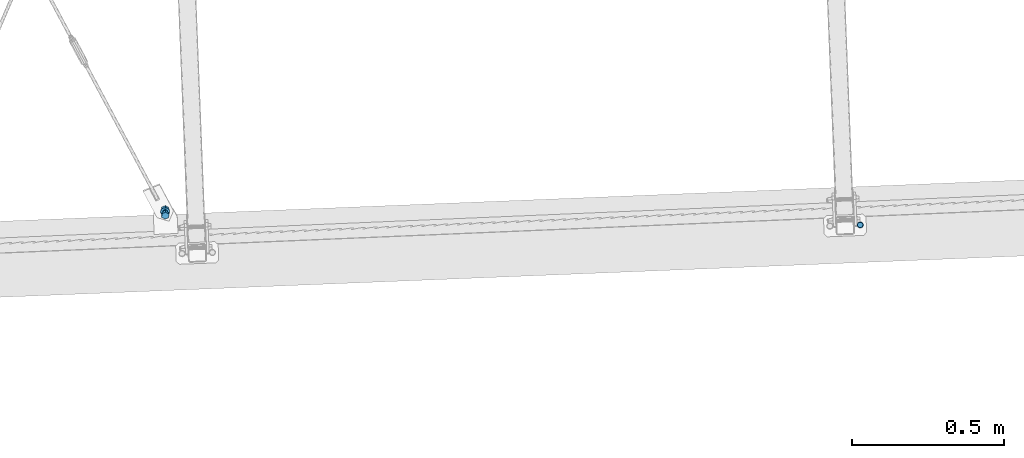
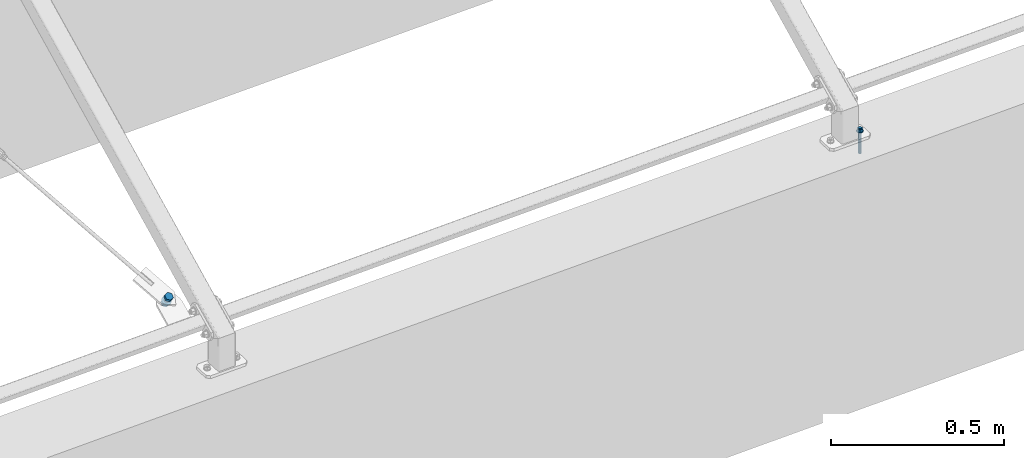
# One storey, part 261 of 288: 2 mechanical fasteners.
"""IFC2X3 building model written with IfcOpenShell, lengths in millimetres."""

from ifc_helpers import new_model, entity, si_unit, converted_unit, origin_with_axes, place, context, project, spatial, faceted_brep, element, save


model = new_model("IFC2X3")

# Units and contexts
model_context = context("Model", 3, precision=1e-09, world=origin_with_axes())
ifc_project = project(units=[si_unit("LENGTHUNIT", "METRE", prefix="MILLI"), si_unit("AREAUNIT", "SQUARE_METRE"), si_unit("VOLUMEUNIT", "CUBIC_METRE"), converted_unit("PLANEANGLEUNIT", "DEGREE", entity("IfcPlaneAngleMeasure", 0.01745329), si_unit("PLANEANGLEUNIT", "RADIAN"), dimensions=[0, 0, 0, 0, 0, 0, 0])], contexts=[model_context])

# Site, building, storey
site_placement = place(None, origin_with_axes())
site = spatial("IfcSite", under=ifc_project, at=site_placement, Name="Remont ?wietlik?w nad MC w NCPP w Opolu", CompositionType="ELEMENT")
building_placement = place(site_placement, origin_with_axes())
building = spatial("IfcBuilding", under=site, at=building_placement, Name="Konstrukcja 1", CompositionType="ELEMENT")
storey_placement = place(building_placement, origin_with_axes())
storey = spatial("IfcBuildingStorey", under=building, at=storey_placement, Name="Default Storey", CompositionType="ELEMENT", Elevation=0.0)

# Mechanical fasteners
mechanical_fastener_1_placement = place(None, origin_with_axes())
element("IfcMechanicalFastener", 1, at=mechanical_fastener_1_placement, inside=storey, ObjectType="Anchor_Bolt", NominalDiameter=10.0, NominalLength=90.0, context=model_context, shape_type="Brep", body=[
    faceted_brep([(5653.463595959, 13768.125662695, 12.000000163), (5653.463595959, 13768.125662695, 10.000000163), (5651.424685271, 13767.843370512, 10.000000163), (5651.424685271, 13767.843370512, 12.000000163), (5649.480024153, 13767.168730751, 10.000000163), (5649.480024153, 13767.168730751, 12.000000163), (5647.704344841, 13766.12766944, 10.000000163), (5647.704344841, 13766.12766944, 12.000000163), (5646.165885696, 13764.760193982, 10.000000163), (5646.165885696, 13764.760193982, 12.000000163), (5644.923768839, 13763.118855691, 10.000000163), (5644.923768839, 13763.118855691, 12.000000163), (5644.025728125, 13761.266730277, 10.000000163), (5644.025728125, 13761.266730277, 12.000000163), (5643.506274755, 13759.274993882, 10.000000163), (5643.506274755, 13759.274993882, 12.000000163), (5643.38537103, 13757.220187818, 10.000000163), (5643.38537103, 13757.220187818, 12.000000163), (5643.667663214, 13755.18127713, 10.000000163), (5643.667663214, 13755.18127713, 12.000000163), (5644.342302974, 13753.236616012, 10.000000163), (5644.342302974, 13753.236616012, 12.000000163), (5645.383364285, 13751.4609367, 10.000000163), (5645.383364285, 13751.4609367, 12.000000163), (5646.750839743, 13749.922477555, 10.000000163), (5646.750839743, 13749.922477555, 12.000000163), (5648.392178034, 13748.680360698, 10.000000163), (5648.392178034, 13748.680360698, 12.000000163), (5650.244303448, 13747.782319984, 10.000000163), (5650.244303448, 13747.782319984, 12.000000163), (5652.236039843, 13747.262866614, 10.000000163), (5652.236039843, 13747.262866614, 12.000000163), (5654.290845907, 13747.141962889, 10.000000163), (5654.290845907, 13747.141962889, 12.000000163), (5656.329756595, 13747.424255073, 10.000000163), (5656.329756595, 13747.424255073, 12.000000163), (5658.274417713, 13748.098894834, 10.000000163), (5658.274417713, 13748.098894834, 12.000000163), (5660.050097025, 13749.139956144, 10.000000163), (5660.050097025, 13749.139956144, 12.000000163), (5661.58855617, 13750.507431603, 10.000000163), (5661.58855617, 13750.507431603, 12.000000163), (5662.830673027, 13752.148769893, 10.000000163), (5662.830673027, 13752.148769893, 12.000000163), (5663.728713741, 13754.000895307, 10.000000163), (5663.728713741, 13754.000895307, 12.000000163), (5664.248167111, 13755.992631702, 10.000000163), (5664.248167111, 13755.992631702, 12.000000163), (5664.369070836, 13758.047437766, 10.000000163), (5664.369070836, 13758.047437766, 12.000000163), (5664.086778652, 13760.086348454, 10.000000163), (5664.086778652, 13760.086348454, 12.000000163), (5663.412138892, 13762.031009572, 10.000000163), (5663.412138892, 13762.031009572, 12.000000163), (5662.371077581, 13763.806688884, 10.000000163), (5662.371077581, 13763.806688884, 12.000000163), (5661.003602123, 13765.345148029, 10.000000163), (5661.003602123, 13765.345148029, 12.000000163), (5659.362263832, 13766.587264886, 10.000000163), (5659.362263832, 13766.587264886, 12.000000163), (5657.510138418, 13767.4853056, 10.000000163), (5657.510138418, 13767.4853056, 12.000000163), (5655.518402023, 13768.00475897, 10.000000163), (5655.518402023, 13768.00475897, 12.000000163)], [[[0, 1, 2, 3]], [[3, 2, 4, 5]], [[5, 4, 6, 7]], [[7, 6, 8, 9]], [[9, 8, 10, 11]], [[11, 10, 12, 13]], [[13, 12, 14, 15]], [[15, 14, 16, 17]], [[17, 16, 18, 19]], [[19, 18, 20, 21]], [[21, 20, 22, 23]], [[23, 22, 24, 25]], [[25, 24, 26, 27]], [[27, 26, 28, 29]], [[29, 28, 30, 31]], [[31, 30, 32, 33]], [[33, 32, 34, 35]], [[35, 34, 36, 37]], [[37, 36, 38, 39]], [[39, 38, 40, 41]], [[41, 40, 42, 43]], [[43, 42, 44, 45]], [[45, 44, 46, 47]], [[47, 46, 48, 49]], [[49, 48, 50, 51]], [[51, 50, 52, 53]], [[53, 52, 54, 55]], [[55, 54, 56, 57]], [[57, 56, 58, 59]], [[59, 58, 60, 61]], [[61, 60, 62, 63]], [[63, 62, 1, 0]], [[0, 3, 5, 7, 9, 11, 13, 15, 17, 19, 21, 23, 25, 27, 29, 31, 33, 35, 37, 39, 41, 43, 45, 47, 49, 51, 53, 55, 57, 59, 61, 63]], [[1, 62, 60, 58, 56, 54, 52, 50, 48, 46, 44, 42, 40, 38, 36, 34, 32, 30, 28, 26, 24, 22, 20, 18, 16, 14, 12, 10, 8, 6, 4, 2]]]),
    faceted_brep([(5649.315353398, 13748.960326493, 12.000000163), (5649.315353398, 13748.960326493, 20.000000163), (5644.08482769, 13757.247762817, 20.000000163), (5644.08482769, 13757.247762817, 12.000000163), (5648.646695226, 13765.921249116, 20.000000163), (5648.646695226, 13765.921249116, 12.000000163), (5658.439088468, 13766.307299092, 20.000000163), (5658.439088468, 13766.307299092, 12.000000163), (5663.669614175, 13758.019862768, 20.000000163), (5663.669614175, 13758.019862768, 12.000000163), (5659.10774664, 13749.346376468, 20.000000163), (5659.10774664, 13749.346376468, 12.000000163)], [[[0, 1, 2, 3]], [[3, 2, 4, 5]], [[5, 4, 6, 7]], [[7, 6, 8, 9]], [[9, 8, 10, 11]], [[11, 10, 1, 0]], [[4, 2, 1, 10, 8, 6]], [[0, 3, 5, 7, 9, 11]]]),
    faceted_brep([(5653.68025666, 13762.629931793, 23.000000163), (5653.68025666, 13762.629931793, 20.000000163), (5651.783317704, 13762.174249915, 20.000000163), (5651.783317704, 13762.174249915, 23.000000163), (5650.205156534, 13761.027327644, 20.000000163), (5650.205156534, 13761.027327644, 23.000000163), (5649.186033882, 13759.363773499, 20.000000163), (5649.186033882, 13759.363773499, 23.000000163), (5648.881101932, 13757.436848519, 20.000000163), (5648.881101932, 13757.436848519, 23.000000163), (5649.33678381, 13755.539909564, 20.000000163), (5649.33678381, 13755.539909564, 23.000000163), (5650.483706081, 13753.961748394, 20.000000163), (5650.483706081, 13753.961748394, 23.000000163), (5652.147260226, 13752.942625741, 20.000000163), (5652.147260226, 13752.942625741, 23.000000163), (5654.074185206, 13752.637693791, 20.000000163), (5654.074185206, 13752.637693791, 23.000000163), (5655.971124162, 13753.093375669, 20.000000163), (5655.971124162, 13753.093375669, 23.000000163), (5657.549285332, 13754.24029794, 20.000000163), (5657.549285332, 13754.24029794, 23.000000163), (5658.568407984, 13755.903852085, 20.000000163), (5658.568407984, 13755.903852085, 23.000000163), (5658.873339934, 13757.830777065, 20.000000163), (5658.873339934, 13757.830777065, 23.000000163), (5658.417658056, 13759.727716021, 20.000000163), (5658.417658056, 13759.727716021, 23.000000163), (5657.270735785, 13761.305877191, 20.000000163), (5657.270735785, 13761.305877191, 23.000000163), (5655.60718164, 13762.324999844, 20.000000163), (5655.60718164, 13762.324999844, 23.000000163)], [[[0, 1, 2, 3]], [[3, 2, 4, 5]], [[5, 4, 6, 7]], [[7, 6, 8, 9]], [[9, 8, 10, 11]], [[11, 10, 12, 13]], [[13, 12, 14, 15]], [[15, 14, 16, 17]], [[17, 16, 18, 19]], [[19, 18, 20, 21]], [[21, 20, 22, 23]], [[23, 22, 24, 25]], [[25, 24, 26, 27]], [[27, 26, 28, 29]], [[29, 28, 30, 31]], [[31, 30, 1, 0]], [[0, 3, 5, 7, 9, 11, 13, 15, 17, 19, 21, 23, 25, 27, 29, 31]], [[1, 30, 28, 26, 24, 22, 20, 18, 16, 14, 12, 10, 8, 6, 4, 2]]]),
    faceted_brep([(5653.68025666, 13762.629931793, 10.000000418), (5653.68025666, 13762.629931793, 1.63e-07), (5651.783317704, 13762.174249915, 1.63e-07), (5651.783317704, 13762.174249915, 10.000000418), (5650.205156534, 13761.027327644, 1.63e-07), (5650.205156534, 13761.027327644, 10.000000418), (5649.186033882, 13759.363773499, 1.63e-07), (5649.186033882, 13759.363773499, 10.000000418), (5648.881101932, 13757.436848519, 1.63e-07), (5648.881101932, 13757.436848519, 10.000000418), (5649.33678381, 13755.539909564, 1.63e-07), (5649.33678381, 13755.539909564, 10.000000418), (5650.483706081, 13753.961748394, 1.63e-07), (5650.483706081, 13753.961748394, 10.000000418), (5652.147260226, 13752.942625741, 1.63e-07), (5652.147260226, 13752.942625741, 10.000000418), (5654.074185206, 13752.637693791, 1.63e-07), (5654.074185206, 13752.637693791, 10.000000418), (5655.971124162, 13753.093375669, 1.63e-07), (5655.971124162, 13753.093375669, 10.000000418), (5657.549285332, 13754.24029794, 1.63e-07), (5657.549285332, 13754.24029794, 10.000000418), (5658.568407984, 13755.903852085, 1.63e-07), (5658.568407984, 13755.903852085, 10.000000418), (5658.873339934, 13757.830777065, 1.63e-07), (5658.873339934, 13757.830777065, 10.000000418), (5658.417658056, 13759.727716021, 1.63e-07), (5658.417658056, 13759.727716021, 10.000000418), (5657.270735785, 13761.305877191, 1.63e-07), (5657.270735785, 13761.305877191, 10.000000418), (5655.60718164, 13762.324999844, 1.63e-07), (5655.60718164, 13762.324999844, 10.000000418)], [[[0, 1, 2, 3]], [[3, 2, 4, 5]], [[5, 4, 6, 7]], [[7, 6, 8, 9]], [[9, 8, 10, 11]], [[11, 10, 12, 13]], [[13, 12, 14, 15]], [[15, 14, 16, 17]], [[17, 16, 18, 19]], [[19, 18, 20, 21]], [[21, 20, 22, 23]], [[23, 22, 24, 25]], [[25, 24, 26, 27]], [[27, 26, 28, 29]], [[29, 28, 30, 31]], [[31, 30, 1, 0]], [[0, 3, 5, 7, 9, 11, 13, 15, 17, 19, 21, 23, 25, 27, 29, 31]], [[1, 30, 28, 26, 24, 22, 20, 18, 16, 14, 12, 10, 8, 6, 4, 2]]]),
    faceted_brep([(5653.68025666, 13762.629931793, -9.3e-08), (5653.68025666, 13762.629931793, -6.999999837), (5652.709346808, 13762.495506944, -6.999999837), (5652.709346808, 13762.495506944, -9.3e-08), (5651.783317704, 13762.174249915, -6.999999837), (5651.783317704, 13762.174249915, -9.3e-08), (5650.937756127, 13761.678506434, -6.999999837), (5650.937756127, 13761.678506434, -9.3e-08), (5650.205156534, 13761.027327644, -6.999999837), (5650.205156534, 13761.027327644, -9.3e-08), (5649.613672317, 13760.245737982, -6.999999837), (5649.613672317, 13760.245737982, -9.3e-08), (5649.186033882, 13759.363773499, -6.999999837), (5649.186033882, 13759.363773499, -9.3e-08), (5648.938675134, 13758.415327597, -6.999999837), (5648.938675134, 13758.415327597, -9.3e-08), (5648.881101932, 13757.436848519, -6.999999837), (5648.881101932, 13757.436848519, -9.3e-08), (5649.015526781, 13756.465938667, -6.999999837), (5649.015526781, 13756.465938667, -9.3e-08), (5649.33678381, 13755.539909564, -6.999999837), (5649.33678381, 13755.539909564, -9.3e-08), (5649.832527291, 13754.694347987, -6.999999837), (5649.832527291, 13754.694347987, -9.3e-08), (5650.483706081, 13753.961748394, -6.999999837), (5650.483706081, 13753.961748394, -9.3e-08), (5651.265295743, 13753.370264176, -6.999999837), (5651.265295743, 13753.370264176, -9.3e-08), (5652.147260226, 13752.942625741, -6.999999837), (5652.147260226, 13752.942625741, -9.3e-08), (5653.095706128, 13752.695266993, -6.999999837), (5653.095706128, 13752.695266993, -9.3e-08), (5654.074185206, 13752.637693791, -6.999999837), (5654.074185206, 13752.637693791, -9.3e-08), (5655.045095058, 13752.77211864, -6.999999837), (5655.045095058, 13752.77211864, -9.3e-08), (5655.971124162, 13753.093375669, -6.999999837), (5655.971124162, 13753.093375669, -9.3e-08), (5656.816685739, 13753.58911915, -6.999999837), (5656.816685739, 13753.58911915, -9.3e-08), (5657.549285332, 13754.24029794, -6.999999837), (5657.549285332, 13754.24029794, -9.3e-08), (5658.140769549, 13755.021887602, -6.999999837), (5658.140769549, 13755.021887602, -9.3e-08), (5658.568407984, 13755.903852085, -6.999999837), (5658.568407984, 13755.903852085, -9.3e-08), (5658.815766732, 13756.852297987, -6.999999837), (5658.815766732, 13756.852297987, -9.3e-08), (5658.873339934, 13757.830777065, -6.999999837), (5658.873339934, 13757.830777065, -9.3e-08), (5658.738915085, 13758.801686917, -6.999999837), (5658.738915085, 13758.801686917, -9.3e-08), (5658.417658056, 13759.727716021, -6.999999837), (5658.417658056, 13759.727716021, -9.3e-08), (5657.921914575, 13760.573277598, -6.999999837), (5657.921914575, 13760.573277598, -9.3e-08), (5657.270735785, 13761.305877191, -6.999999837), (5657.270735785, 13761.305877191, -9.3e-08), (5656.489146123, 13761.897361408, -6.999999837), (5656.489146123, 13761.897361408, -9.3e-08), (5655.60718164, 13762.324999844, -6.999999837), (5655.60718164, 13762.324999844, -9.3e-08), (5654.658735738, 13762.572358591, -6.999999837), (5654.658735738, 13762.572358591, -9.3e-08)], [[[0, 1, 2, 3]], [[3, 2, 4, 5]], [[5, 4, 6, 7]], [[7, 6, 8, 9]], [[9, 8, 10, 11]], [[11, 10, 12, 13]], [[13, 12, 14, 15]], [[15, 14, 16, 17]], [[17, 16, 18, 19]], [[19, 18, 20, 21]], [[21, 20, 22, 23]], [[23, 22, 24, 25]], [[25, 24, 26, 27]], [[27, 26, 28, 29]], [[29, 28, 30, 31]], [[31, 30, 32, 33]], [[33, 32, 34, 35]], [[35, 34, 36, 37]], [[37, 36, 38, 39]], [[39, 38, 40, 41]], [[41, 40, 42, 43]], [[43, 42, 44, 45]], [[45, 44, 46, 47]], [[47, 46, 48, 49]], [[49, 48, 50, 51]], [[51, 50, 52, 53]], [[53, 52, 54, 55]], [[55, 54, 56, 57]], [[57, 56, 58, 59]], [[59, 58, 60, 61]], [[61, 60, 62, 63]], [[63, 62, 1, 0]], [[0, 3, 5, 7, 9, 11, 13, 15, 17, 19, 21, 23, 25, 27, 29, 31, 33, 35, 37, 39, 41, 43, 45, 47, 49, 51, 53, 55, 57, 59, 61, 63]], [[1, 62, 60, 58, 56, 54, 52, 50, 48, 46, 44, 42, 40, 38, 36, 34, 32, 30, 28, 26, 24, 22, 20, 18, 16, 14, 12, 10, 8, 6, 4, 2]]]),
    faceted_brep([(5653.68025666, 13762.629931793, -6.999999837), (5653.68025666, 13762.629931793, -66.999999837), (5651.783317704, 13762.174249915, -66.999999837), (5651.783317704, 13762.174249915, -6.999999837), (5650.205156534, 13761.027327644, -66.999999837), (5650.205156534, 13761.027327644, -6.999999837), (5649.186033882, 13759.363773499, -66.999999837), (5649.186033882, 13759.363773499, -6.999999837), (5648.881101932, 13757.436848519, -66.999999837), (5648.881101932, 13757.436848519, -6.999999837), (5649.33678381, 13755.539909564, -66.999999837), (5649.33678381, 13755.539909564, -6.999999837), (5650.483706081, 13753.961748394, -66.999999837), (5650.483706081, 13753.961748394, -6.999999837), (5652.147260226, 13752.942625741, -66.999999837), (5652.147260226, 13752.942625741, -6.999999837), (5654.074185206, 13752.637693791, -66.999999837), (5654.074185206, 13752.637693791, -6.999999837), (5655.971124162, 13753.093375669, -66.999999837), (5655.971124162, 13753.093375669, -6.999999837), (5657.549285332, 13754.24029794, -66.999999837), (5657.549285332, 13754.24029794, -6.999999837), (5658.568407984, 13755.903852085, -66.999999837), (5658.568407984, 13755.903852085, -6.999999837), (5658.873339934, 13757.830777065, -66.999999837), (5658.873339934, 13757.830777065, -6.999999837), (5658.417658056, 13759.727716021, -66.999999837), (5658.417658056, 13759.727716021, -6.999999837), (5657.270735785, 13761.305877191, -66.999999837), (5657.270735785, 13761.305877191, -6.999999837), (5655.60718164, 13762.324999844, -66.999999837), (5655.60718164, 13762.324999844, -6.999999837)], [[[0, 1, 2, 3]], [[3, 2, 4, 5]], [[5, 4, 6, 7]], [[7, 6, 8, 9]], [[9, 8, 10, 11]], [[11, 10, 12, 13]], [[13, 12, 14, 15]], [[15, 14, 16, 17]], [[17, 16, 18, 19]], [[19, 18, 20, 21]], [[21, 20, 22, 23]], [[23, 22, 24, 25]], [[25, 24, 26, 27]], [[27, 26, 28, 29]], [[29, 28, 30, 31]], [[31, 30, 1, 0]], [[0, 3, 5, 7, 9, 11, 13, 15, 17, 19, 21, 23, 25, 27, 29, 31]], [[1, 30, 28, 26, 24, 22, 20, 18, 16, 14, 12, 10, 8, 6, 4, 2]]]),
])
mechanical_fastener_2_placement = place(None, origin_with_axes())
element("IfcMechanicalFastener", 2, at=mechanical_fastener_2_placement, inside=storey, ObjectType="Bolt#1", NominalDiameter=16.0, NominalLength=40.0, context=model_context, shape_type="Brep", body=[
    faceted_brep([(3355.00198822, 13794.527787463, 214.071538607), (3354.786038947, 13799.562924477, 205.434365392), (3353.545093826, 13788.044376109, 198.750524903), (3353.761043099, 13783.009239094, 207.387698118), (3364.455035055, 13781.481873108, 194.652066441), (3364.670984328, 13776.446736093, 203.289239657), (3376.605921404, 13786.437918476, 197.23744847), (3376.821870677, 13781.402781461, 205.874621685), (3377.846866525, 13797.956466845, 203.921288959), (3378.062815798, 13792.92132983, 212.558462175), (3366.936925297, 13804.518969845, 208.019747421), (3367.15287457, 13799.48383283, 216.656920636)], [[[0, 1, 2, 3]], [[3, 2, 4, 5]], [[5, 4, 6, 7]], [[7, 6, 8, 9]], [[9, 8, 10, 11]], [[11, 10, 1, 0]], [[3, 5, 7, 9, 11, 0]], [[2, 1, 10, 8, 6, 4]]]),
    faceted_brep([(3368.689465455, 13794.812693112, 183.792967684), (3369.034984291, 13786.756473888, 197.612444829), (3365.999543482, 13786.097353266, 197.304096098), (3365.654024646, 13794.15357249, 183.484618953), (3362.917887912, 13786.489162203, 197.609554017), (3362.572369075, 13794.545381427, 183.790076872), (3360.259171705, 13787.872251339, 198.482315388), (3359.913652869, 13795.928470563, 184.662838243), (3358.428160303, 13790.036057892, 199.789510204), (3358.082641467, 13798.092277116, 185.970033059), (3357.703608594, 13792.651161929, 201.332129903), (3357.358089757, 13800.707381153, 187.512652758), (3358.195823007, 13795.319437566, 202.87532462), (3357.85030417, 13803.37565679, 189.055847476), (3359.82986836, 13797.634664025, 204.18415695), (3359.484349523, 13805.690883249, 190.364679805), (3362.35697606, 13799.244369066, 205.059369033), (3362.011457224, 13807.30058829, 191.239891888), (3365.392416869, 13799.903489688, 205.367717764), (3365.046898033, 13807.959708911, 191.54824062), (3368.47407244, 13799.511680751, 205.062259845), (3368.128553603, 13807.567899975, 191.2427827), (3371.132788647, 13798.128591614, 204.189498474), (3370.78726981, 13806.184810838, 190.370021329), (3372.963800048, 13795.964785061, 202.882303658), (3372.618281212, 13804.021004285, 189.062826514), (3373.688351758, 13793.349681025, 201.339683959), (3373.342832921, 13801.405900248, 187.520206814), (3373.196137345, 13790.681405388, 199.796489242), (3372.850618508, 13798.737624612, 185.977012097), (3371.562091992, 13788.366178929, 198.487656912), (3371.216573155, 13796.422398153, 184.668179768)], [[[0, 1, 2, 3]], [[3, 2, 4, 5]], [[5, 4, 6, 7]], [[7, 6, 8, 9]], [[9, 8, 10, 11]], [[11, 10, 12, 13]], [[13, 12, 14, 15]], [[15, 14, 16, 17]], [[17, 16, 18, 19]], [[19, 18, 20, 21]], [[21, 20, 22, 23]], [[23, 22, 24, 25]], [[25, 24, 26, 27]], [[27, 26, 28, 29]], [[29, 28, 30, 31]], [[31, 30, 1, 0]], [[2, 1, 30, 28, 26, 24, 22, 20, 18, 16, 14, 12, 10, 8, 6, 4]], [[31, 0, 3, 5, 7, 9, 11, 13, 15, 17, 19, 21, 23, 25, 27, 29]]]),
    faceted_brep([(3371.546309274, 13790.859780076, 177.943786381), (3371.611094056, 13789.349238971, 180.534938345), (3368.83227028, 13788.489845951, 180.103422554), (3368.767485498, 13790.000387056, 177.51227059), (3365.919642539, 13788.113387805, 179.956784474), (3365.854857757, 13789.62392891, 177.365632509), (3362.985141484, 13788.23433161, 180.100659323), (3362.920356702, 13789.744872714, 177.509507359), (3360.141538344, 13788.848029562, 180.529518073), (3360.076753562, 13790.358570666, 177.938366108), (3357.498111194, 13789.930897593, 181.226879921), (3357.433326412, 13791.441438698, 178.635727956), (3355.156445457, 13791.441321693, 182.165945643), (3355.091660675, 13792.951862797, 179.574793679), (3353.206530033, 13793.32125711, 183.310627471), (3353.141745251, 13794.831798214, 180.719475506), (3351.723299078, 13795.49845898, 184.616935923), (3351.658514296, 13797.009000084, 182.025783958), (3350.763752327, 13797.889258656, 186.034670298), (3350.698967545, 13799.399799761, 183.443518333), (3350.364764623, 13800.401779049, 187.509347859), (3350.299979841, 13801.912320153, 184.918195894), (3350.54166884, 13802.939465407, 188.984297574), (3350.476884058, 13804.450006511, 186.39314561), (3351.287666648, 13805.404795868, 190.402837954), (3351.222881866, 13806.915336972, 187.81168599), (3352.574089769, 13807.703029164, 191.710455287), (3352.509304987, 13809.213570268, 189.119303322), (3354.351501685, 13809.745845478, 192.856898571), (3354.286716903, 13811.256386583, 190.265746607), (3356.551597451, 13811.454740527, 193.798110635), (3356.486812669, 13812.965281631, 191.206958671), (3359.089828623, 13812.76404243, 194.497921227), (3359.025043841, 13814.274583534, 191.906769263), (3361.868652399, 13813.62343545, 194.929437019), (3361.803867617, 13815.133976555, 192.338285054), (3364.78128014, 13813.999893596, 195.076075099), (3364.716495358, 13815.5104347, 192.484923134), (3367.715781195, 13813.878949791, 194.93220025), (3367.650996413, 13815.389490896, 192.341048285), (3370.559384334, 13813.265251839, 194.5033415), (3370.494599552, 13814.775792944, 191.912189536), (3373.202811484, 13812.182383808, 193.805979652), (3373.138026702, 13813.692924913, 191.214827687), (3375.544477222, 13810.671959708, 192.866913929), (3375.47969244, 13812.182500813, 190.275761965), (3377.494392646, 13808.792024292, 191.722232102), (3377.429607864, 13810.302565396, 189.131080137), (3378.9776236, 13806.614822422, 190.41592365), (3378.912838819, 13808.125363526, 187.824771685), (3379.937170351, 13804.224022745, 188.998189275), (3379.872385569, 13805.73456385, 186.40703731), (3380.336158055, 13801.711502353, 187.523511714), (3380.271373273, 13803.222043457, 184.932359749), (3380.159253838, 13799.173815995, 186.048561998), (3380.094469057, 13800.684357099, 183.457410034), (3379.413256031, 13796.708485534, 184.630021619), (3379.348471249, 13798.219026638, 182.038869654), (3378.12683291, 13794.410252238, 183.322404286), (3378.062048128, 13795.920793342, 180.731252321), (3376.349420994, 13792.367435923, 182.175961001), (3376.284636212, 13793.877977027, 179.584809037), (3374.149325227, 13790.658540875, 181.234748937), (3374.084540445, 13792.169081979, 178.643596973)], [[[0, 1, 2, 3]], [[3, 2, 4, 5]], [[5, 4, 6, 7]], [[7, 6, 8, 9]], [[9, 8, 10, 11]], [[11, 10, 12, 13]], [[13, 12, 14, 15]], [[15, 14, 16, 17]], [[17, 16, 18, 19]], [[19, 18, 20, 21]], [[21, 20, 22, 23]], [[23, 22, 24, 25]], [[25, 24, 26, 27]], [[27, 26, 28, 29]], [[29, 28, 30, 31]], [[31, 30, 32, 33]], [[33, 32, 34, 35]], [[35, 34, 36, 37]], [[37, 36, 38, 39]], [[39, 38, 40, 41]], [[41, 40, 42, 43]], [[43, 42, 44, 45]], [[45, 44, 46, 47]], [[47, 46, 48, 49]], [[49, 48, 50, 51]], [[51, 50, 52, 53]], [[53, 52, 54, 55]], [[55, 54, 56, 57]], [[57, 56, 58, 59]], [[59, 58, 60, 61]], [[61, 60, 62, 63]], [[63, 62, 1, 0]], [[2, 1, 62, 60, 58, 56, 54, 52, 50, 48, 46, 44, 42, 40, 38, 36, 34, 32, 30, 28, 26, 24, 22, 20, 18, 16, 14, 12, 10, 8, 6, 4]], [[63, 0, 3, 5, 7, 9, 11, 13, 15, 17, 19, 21, 23, 25, 27, 29, 31, 33, 35, 37, 39, 41, 43, 45, 47, 49, 51, 53, 55, 57, 59, 61]]]),
    faceted_brep([(3354.375735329, 13809.129684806, 189.023736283), (3354.056130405, 13816.581687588, 176.240719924), (3352.815185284, 13805.063139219, 169.556879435), (3353.134790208, 13797.611136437, 182.339895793), (3363.725126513, 13798.500636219, 165.458420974), (3364.044731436, 13791.048633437, 178.241437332), (3375.876012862, 13803.456681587, 168.043803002), (3376.195617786, 13796.004678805, 180.826819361), (3377.116957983, 13814.975229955, 174.727643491), (3377.436562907, 13807.523227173, 187.51065985), (3366.207016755, 13821.537732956, 178.826101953), (3366.526621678, 13814.085730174, 191.609118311)], [[[0, 1, 2, 3]], [[3, 2, 4, 5]], [[5, 4, 6, 7]], [[7, 6, 8, 9]], [[9, 8, 10, 11]], [[11, 10, 1, 0]], [[3, 5, 7, 9, 11, 0]], [[2, 1, 10, 8, 6, 4]]]),
    faceted_brep([(3368.1711872, 13806.897021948, 163.063751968), (3368.305075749, 13803.775236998, 168.418799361), (3365.26963494, 13803.116116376, 168.11045063), (3365.135746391, 13806.237901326, 162.755403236), (3362.18797937, 13803.507925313, 168.415908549), (3362.05409082, 13806.629710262, 163.060861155), (3359.529263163, 13804.89101445, 169.28866992), (3359.395374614, 13808.012799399, 163.933622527), (3357.698251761, 13807.054821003, 170.595864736), (3357.564363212, 13810.176605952, 165.240817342), (3356.973700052, 13809.669925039, 172.138484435), (3356.839811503, 13812.791709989, 166.783437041), (3357.465914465, 13812.338200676, 173.681679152), (3357.332025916, 13815.459985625, 168.326631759), (3359.099959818, 13814.653427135, 174.990511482), (3358.966071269, 13817.775212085, 169.635464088), (3361.627067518, 13816.263132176, 175.865723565), (3361.493178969, 13819.384917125, 170.510676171), (3364.662508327, 13816.922252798, 176.174072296), (3364.528619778, 13820.044037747, 170.819024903), (3367.744163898, 13816.530443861, 175.868614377), (3367.610275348, 13819.65222881, 170.513566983), (3370.402880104, 13815.147354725, 174.995853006), (3370.268991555, 13818.269139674, 169.640805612), (3372.233891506, 13812.983548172, 173.68865819), (3372.100002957, 13816.105333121, 168.333610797), (3372.958443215, 13810.368444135, 172.146038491), (3372.824554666, 13813.490229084, 166.790991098), (3372.466228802, 13807.700168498, 170.602843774), (3372.332340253, 13810.821953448, 165.24779638), (3370.832183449, 13805.384942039, 169.294011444), (3370.6982949, 13808.506726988, 163.938964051)], [[[0, 1, 2, 3]], [[3, 2, 4, 5]], [[5, 4, 6, 7]], [[7, 6, 8, 9]], [[9, 8, 10, 11]], [[11, 10, 12, 13]], [[13, 12, 14, 15]], [[15, 14, 16, 17]], [[17, 16, 18, 19]], [[19, 18, 20, 21]], [[21, 20, 22, 23]], [[23, 22, 24, 25]], [[25, 24, 26, 27]], [[27, 26, 28, 29]], [[29, 28, 30, 31]], [[31, 30, 1, 0]], [[2, 1, 30, 28, 26, 24, 22, 20, 18, 16, 14, 12, 10, 8, 6, 4]], [[31, 0, 3, 5, 7, 9, 11, 13, 15, 17, 19, 21, 23, 25, 27, 29]]]),
])

save(model, "model.ifc")
